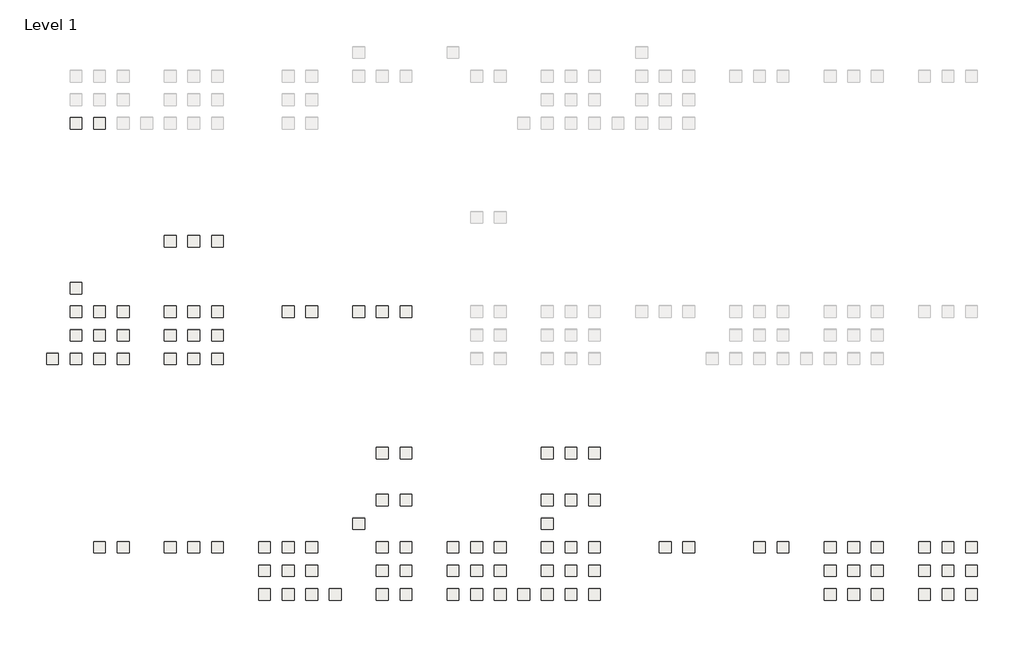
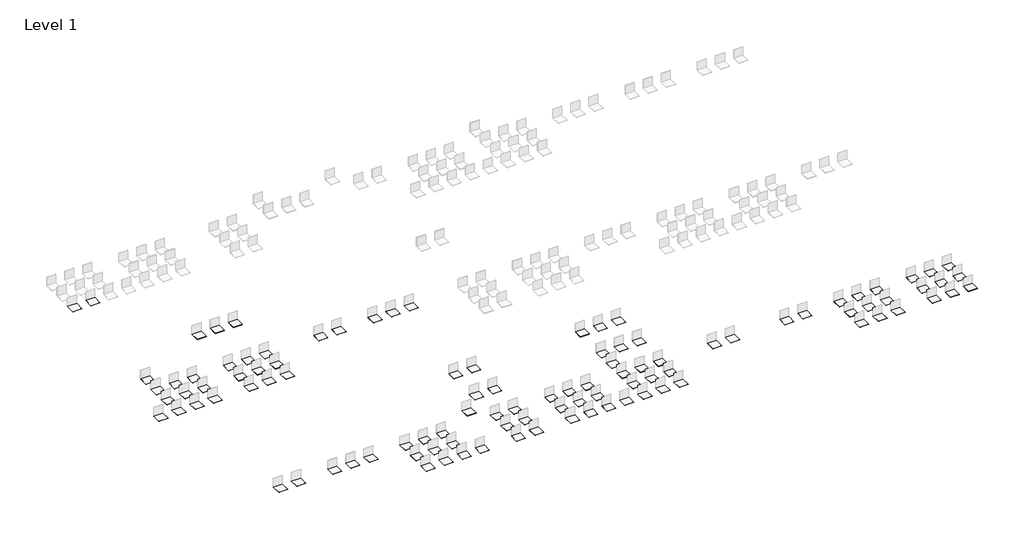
# One storey, part 3 of 4: 104 coverings.
"""IFC4 building model written with IfcOpenShell, lengths in millimetres."""

from ifc_helpers import new_model, si_unit, frame, origin, place, context, project, spatial, polyline, outline, extrude, element, save

model = new_model("IFC4")

# Units and contexts
model_context = context("Model", 3, world=origin())
ifc_project = project(units=[si_unit("LENGTHUNIT", "METRE", prefix="MILLI")], contexts=[model_context])

# Site, building, storey
site = spatial("IfcSite", under=ifc_project)
building = spatial("IfcBuilding", under=site)
storey = spatial("IfcBuildingStorey", under=building, Name="Level 1", Elevation=0.0)

# Coverings
placement = place(None, origin())
element("IfcCovering", 1, ObjectType="REVIGRÉS-CROMATICA-BASE-29,7x29,7-MATTRECT-Cromatica_alloy", at=placement, inside=storey, context=model_context, shape_type="SweptSolid", body=[
    extrude(outline(polyline([(3002.0475963, 26398.4324289), (2002.0475963, 26398.4324289), (2002.0475963, 27398.4324289), (3002.0475963, 27398.4324289), (3002.0475963, 26398.4324289)])), frame((0.0, 0.0, -8.5), z_axis=(0.0, 0.0, 1.0), x_axis=(1.0, 0.0, 0.0)), (0.0, 0.0, 1.0), 8.5),
])
element("IfcCovering", 2, ObjectType="REVIGRÉS-CROMATICA-BASE-29,7x29,7-POL-Cromatica_alloy", at=placement, inside=storey, context=model_context, shape_type="SweptSolid", body=[
    extrude(outline(polyline([(5002.0475963, 26398.4324289), (4002.0475963, 26398.4324289), (4002.0475963, 27398.6824289), (5002.0475963, 27398.6824289), (5002.0475963, 26398.4324289)])), frame((0.0, 0.0, -8.0), z_axis=(0.0, 0.0, 1.0), x_axis=(1.0, 0.0, 0.0)), (0.0, 0.0, 1.0), 8.0),
])
element("IfcCovering", 3, ObjectType="REVIGRÉS-CROMATICA-BASE-29,7x29,7-MATTRECT-Cromatica_grafite", at=placement, inside=storey, context=model_context, shape_type="SweptSolid", body=[
    extrude(outline(polyline([(3002.0475963, 6398.432429), (2002.0475963, 6398.432429), (2002.0475963, 7398.432429), (3002.0475963, 7398.432429), (3002.0475963, 6398.432429)])), frame((0.0, 0.0, -8.5), z_axis=(0.0, 0.0, 1.0), x_axis=(1.0, 0.0, 0.0)), (0.0, 0.0, 1.0), 8.5),
])
element("IfcCovering", 4, ObjectType="REVIGRÉS-CROMATICA-BASE-29,7x59,2-MATTRECT-Cromatica_grafite", at=placement, inside=storey, context=model_context, shape_type="SweptSolid", body=[
    extrude(outline(polyline([(3002.0475963, 8398.432429), (2002.0475963, 8398.432429), (2002.0475963, 9398.432429), (3002.0475963, 9398.432429), (3002.0475963, 8398.432429)])), frame((0.0, 0.0, -8.5), z_axis=(0.0, 0.0, 1.0), x_axis=(1.0, 0.0, 0.0)), (0.0, 0.0, 1.0), 8.5),
])
element("IfcCovering", 5, ObjectType="REVIGRÉS-CROMATICA-BASE-59,2x59,2-MATTRECT-Cromatica_grafite", at=placement, inside=storey, context=model_context, shape_type="SweptSolid", body=[
    extrude(outline(polyline([(3002.0475963, 10398.432429), (2002.0475963, 10398.432429), (2002.0475963, 11398.432429), (3002.0475963, 11398.432429), (3002.0475963, 10398.432429)])), frame((0.0, 0.0, -8.5), z_axis=(0.0, 0.0, 1.0), x_axis=(1.0, 0.0, 0.0)), (0.0, 0.0, 1.0), 8.5),
])
element("IfcCovering", 6, ObjectType="REVIGRÉS-CROMATICA-BASE-59,2x59,2_14mm-MATTRECT-Cromatica_grafite", at=placement, inside=storey, context=model_context, shape_type="SweptSolid", body=[
    extrude(outline(polyline([(3002.0475963, 12398.432429), (2002.0475963, 12398.432429), (2002.0475963, 13398.432429), (3002.0475963, 13398.432429), (3002.0475963, 12398.432429)])), frame((0.0, 0.0, -14.0), z_axis=(0.0, 0.0, 1.0), x_axis=(1.0, 0.0, 0.0)), (0.0, 0.0, 1.0), 14.0),
])
element("IfcCovering", 7, ObjectType="REVIGRÉS-CROMATICA-BASE-29,7x29,7-POL-Cromatica_grafite", at=placement, inside=storey, context=model_context, shape_type="SweptSolid", body=[
    extrude(outline(polyline([(5002.0475963, 6398.432429), (4002.0475963, 6398.432429), (4002.0475963, 7398.682429), (5002.0475963, 7398.682429), (5002.0475963, 6398.432429)])), frame((0.0, 0.0, -8.0), z_axis=(0.0, 0.0, 1.0), x_axis=(1.0, 0.0, 0.0)), (0.0, 0.0, 1.0), 8.0),
])
element("IfcCovering", 8, ObjectType="REVIGRÉS-CROMATICA-BASE-29,7x59,2-POL-Cromatica_grafite", at=placement, inside=storey, context=model_context, shape_type="SweptSolid", body=[
    extrude(outline(polyline([(5002.0475963, 8398.432429), (4002.0475963, 8398.432429), (4002.0475963, 9398.432429), (5002.0475963, 9398.432429), (5002.0475963, 8398.432429)])), frame((0.0, 0.0, -8.0), z_axis=(0.0, 0.0, 1.0), x_axis=(1.0, 0.0, 0.0)), (0.0, 0.0, 1.0), 8.0),
])
element("IfcCovering", 9, ObjectType="REVIGRÉS-CROMATICA-BASE-59,2x59,2-POL-Cromatica_grafite", at=placement, inside=storey, context=model_context, shape_type="SweptSolid", body=[
    extrude(outline(polyline([(5002.0475963, 10398.432429), (4002.0475963, 10398.432429), (4002.0475963, 11398.432429), (5002.0475963, 11398.432429), (5002.0475963, 10398.432429)])), frame((0.0, 0.0, -8.0), z_axis=(0.0, 0.0, 1.0), x_axis=(1.0, 0.0, 0.0)), (0.0, 0.0, 1.0), 8.0),
])
element("IfcCovering", 10, ObjectType="REVIGRÉS-CROMATICA-BASE-29,7x29,7-SOFT-Cromatica_grafite", at=placement, inside=storey, context=model_context, shape_type="SweptSolid", body=[
    extrude(outline(polyline([(7002.0475963, 6398.432429), (6002.0475963, 6398.432429), (6002.0475963, 7398.432429), (7002.0475963, 7398.432429), (7002.0475963, 6398.432429)])), frame((0.0, 0.0, -8.5), z_axis=(0.0, 0.0, 1.0), x_axis=(1.0, 0.0, 0.0)), (0.0, 0.0, 1.0), 8.5),
])
element("IfcCovering", 11, ObjectType="REVIGRÉS-CROMATICA-BASE-29,7x59,2-SOFT-Cromatica_grafite", at=placement, inside=storey, context=model_context, shape_type="SweptSolid", body=[
    extrude(outline(polyline([(7002.0475963, 8398.432429), (6002.0475963, 8398.432429), (6002.0475963, 9398.432429), (7002.0475963, 9398.432429), (7002.0475963, 8398.432429)])), frame((0.0, 0.0, -8.5), z_axis=(0.0, 0.0, 1.0), x_axis=(1.0, 0.0, 0.0)), (0.0, 0.0, 1.0), 8.5),
])
element("IfcCovering", 12, ObjectType="REVIGRÉS-CROMATICA-BASE-59,2x59,2-SOFT-Cromatica_grafite", at=placement, inside=storey, context=model_context, shape_type="SweptSolid", body=[
    extrude(outline(polyline([(7002.0475963, 10398.432429), (6002.0475963, 10398.432429), (6002.0475963, 11398.432429), (7002.0475963, 11398.432429), (7002.0475963, 10398.432429)])), frame((0.0, 0.0, -8.5), z_axis=(0.0, 0.0, 1.0), x_axis=(1.0, 0.0, 0.0)), (0.0, 0.0, 1.0), 8.5),
])
element("IfcCovering", 13, ObjectType="REVIGRÉS-CROMATICA-BASE-29,7x29,7-MATTRECT-Cromatica_ice", at=placement, inside=storey, context=model_context, shape_type="SweptSolid", body=[
    extrude(outline(polyline([(11002.0475963, 6398.432429), (10002.0475963, 6398.432429), (10002.0475963, 7398.432429), (11002.0475963, 7398.432429), (11002.0475963, 6398.432429)])), frame((0.0, 0.0, -8.5), z_axis=(0.0, 0.0, 1.0), x_axis=(1.0, 0.0, 0.0)), (0.0, 0.0, 1.0), 8.5),
])
element("IfcCovering", 14, ObjectType="REVIGRÉS-CROMATICA-BASE-29,7x59,2-MATTRECT-Cromatica_ice", at=placement, inside=storey, context=model_context, shape_type="SweptSolid", body=[
    extrude(outline(polyline([(11002.0475963, 8398.432429), (10002.0475963, 8398.432429), (10002.0475963, 9398.432429), (11002.0475963, 9398.432429), (11002.0475963, 8398.432429)])), frame((0.0, 0.0, -8.5), z_axis=(0.0, 0.0, 1.0), x_axis=(1.0, 0.0, 0.0)), (0.0, 0.0, 1.0), 8.5),
])
element("IfcCovering", 15, ObjectType="REVIGRÉS-CROMATICA-BASE-59,2x59,2-MATTRECT-Cromatica_ice", at=placement, inside=storey, context=model_context, shape_type="SweptSolid", body=[
    extrude(outline(polyline([(11002.0475963, 10398.432429), (10002.0475963, 10398.432429), (10002.0475963, 11398.432429), (11002.0475963, 11398.432429), (11002.0475963, 10398.432429)])), frame((0.0, 0.0, -8.5), z_axis=(0.0, 0.0, 1.0), x_axis=(1.0, 0.0, 0.0)), (0.0, 0.0, 1.0), 8.5),
])
element("IfcCovering", 16, ObjectType="REVIGRÉS-CROMATICA-BASE-29,7x29,7-POL-Cromatica_ice", at=placement, inside=storey, context=model_context, shape_type="SweptSolid", body=[
    extrude(outline(polyline([(13002.0475963, 6398.432429), (12002.0475963, 6398.432429), (12002.0475963, 7398.682429), (13002.0475963, 7398.682429), (13002.0475963, 6398.432429)])), frame((0.0, 0.0, -8.0), z_axis=(0.0, 0.0, 1.0), x_axis=(1.0, 0.0, 0.0)), (0.0, 0.0, 1.0), 8.0),
])
element("IfcCovering", 17, ObjectType="REVIGRÉS-CROMATICA-BASE-29,7x59,2-POL-Cromatica_ice", at=placement, inside=storey, context=model_context, shape_type="SweptSolid", body=[
    extrude(outline(polyline([(13002.0475963, 8398.432429), (12002.0475963, 8398.432429), (12002.0475963, 9398.432429), (13002.0475963, 9398.432429), (13002.0475963, 8398.432429)])), frame((0.0, 0.0, -8.0), z_axis=(0.0, 0.0, 1.0), x_axis=(1.0, 0.0, 0.0)), (0.0, 0.0, 1.0), 8.0),
])
element("IfcCovering", 18, ObjectType="REVIGRÉS-CROMATICA-BASE-59,2x59,2-POL-Cromatica_ice", at=placement, inside=storey, context=model_context, shape_type="SweptSolid", body=[
    extrude(outline(polyline([(13002.0475963, 10398.432429), (12002.0475963, 10398.432429), (12002.0475963, 11398.432429), (13002.0475963, 11398.432429), (13002.0475963, 10398.432429)])), frame((0.0, 0.0, -8.0), z_axis=(0.0, 0.0, 1.0), x_axis=(1.0, 0.0, 0.0)), (0.0, 0.0, 1.0), 8.0),
])
element("IfcCovering", 19, ObjectType="REVIGRÉS-CROMATICA-BASE-29,7x29,7-SOFT-Cromatica_ice", at=placement, inside=storey, context=model_context, shape_type="SweptSolid", body=[
    extrude(outline(polyline([(15002.0475963, 6398.432429), (14002.0475963, 6398.432429), (14002.0475963, 7398.432429), (15002.0475963, 7398.432429), (15002.0475963, 6398.432429)])), frame((0.0, 0.0, -8.5), z_axis=(0.0, 0.0, 1.0), x_axis=(1.0, 0.0, 0.0)), (0.0, 0.0, 1.0), 8.5),
])
element("IfcCovering", 20, ObjectType="REVIGRÉS-CROMATICA-BASE-29,7x59,2-SOFT-Cromatica_ice", at=placement, inside=storey, context=model_context, shape_type="SweptSolid", body=[
    extrude(outline(polyline([(15002.0475963, 8398.432429), (14002.0475963, 8398.432429), (14002.0475963, 9398.432429), (15002.0475963, 9398.432429), (15002.0475963, 8398.432429)])), frame((0.0, 0.0, -8.5), z_axis=(0.0, 0.0, 1.0), x_axis=(1.0, 0.0, 0.0)), (0.0, 0.0, 1.0), 8.5),
])
element("IfcCovering", 21, ObjectType="REVIGRÉS-CROMATICA-BASE-59,2x59,2-SOFT-Cromatica_ice", at=placement, inside=storey, context=model_context, shape_type="SweptSolid", body=[
    extrude(outline(polyline([(15002.0475963, 10398.432429), (14002.0475963, 10398.432429), (14002.0475963, 11398.432429), (15002.0475963, 11398.432429), (15002.0475963, 10398.432429)])), frame((0.0, 0.0, -8.5), z_axis=(0.0, 0.0, 1.0), x_axis=(1.0, 0.0, 0.0)), (0.0, 0.0, 1.0), 8.5),
])
element("IfcCovering", 22, ObjectType="REVIGRÉS-CROMATICA-BASE-59,2x59,2-POL-Cromatica_indigo", at=placement, inside=storey, context=model_context, shape_type="SweptSolid", body=[
    extrude(outline(polyline([(21002.0475963, 10398.432429), (20002.0475963, 10398.432429), (20002.0475963, 11398.432429), (21002.0475963, 11398.432429), (21002.0475963, 10398.432429)])), frame((0.0, 0.0, -8.0), z_axis=(0.0, 0.0, 1.0), x_axis=(1.0, 0.0, 0.0)), (0.0, 0.0, 1.0), 8.0),
])
element("IfcCovering", 23, ObjectType="REVIGRÉS-CROMATICA-BASE-59,2x59,2-SOFT-Cromatica_indigo", at=placement, inside=storey, context=model_context, shape_type="SweptSolid", body=[
    extrude(outline(polyline([(23002.0475963, 10398.432429), (22002.0475963, 10398.432429), (22002.0475963, 11398.432429), (23002.0475963, 11398.432429), (23002.0475963, 10398.432429)])), frame((0.0, 0.0, -8.5), z_axis=(0.0, 0.0, 1.0), x_axis=(1.0, 0.0, 0.0)), (0.0, 0.0, 1.0), 8.5),
])
element("IfcCovering", 24, ObjectType="REVIGRÉS-CROMATICA-BASE-87x87-MATTRECT-Cromatica_ice", at=placement, inside=storey, context=model_context, shape_type="SweptSolid", body=[
    extrude(outline(polyline([(11002.0475963, 16398.432429), (10002.0475963, 16398.432429), (10002.0475963, 17398.432429), (11002.0475963, 17398.432429), (11002.0475963, 16398.432429)])), frame((0.0, 0.0, -10.5), z_axis=(0.0, 0.0, 1.0), x_axis=(1.0, 0.0, 0.0)), (0.0, 0.0, 1.0), 10.5),
])
element("IfcCovering", 25, ObjectType="REVIGRÉS-CROMATICA-BASE-87x87-POL-Cromatica_ice", at=placement, inside=storey, context=model_context, shape_type="SweptSolid", body=[
    extrude(outline(polyline([(13002.0475963, 16398.432429), (12002.0475963, 16398.432429), (12002.0475963, 17398.432429), (13002.0475963, 17398.432429), (13002.0475963, 16398.432429)])), frame((0.0, 0.0, -9.8), z_axis=(0.0, 0.0, 1.0), x_axis=(1.0, 0.0, 0.0)), (0.0, 0.0, 1.0), 9.8),
])
element("IfcCovering", 26, ObjectType="REVIGRÉS-CROMATICA-BASE-87x87-SOFT-Cromatica_ice", at=placement, inside=storey, context=model_context, shape_type="SweptSolid", body=[
    extrude(outline(polyline([(15002.0475963, 16398.432429), (14002.0475963, 16398.432429), (14002.0475963, 17398.432429), (15002.0475963, 17398.432429), (15002.0475963, 16398.432429)])), frame((0.0, 0.0, -10.5), z_axis=(0.0, 0.0, 1.0), x_axis=(1.0, 0.0, 0.0)), (0.0, 0.0, 1.0), 10.5),
])
element("IfcCovering", 27, ObjectType="REVIGRÉS-CROMATICA-BASE-59,2x59,2-MATTRECT-Cromatica_jade", at=placement, inside=storey, context=model_context, shape_type="SweptSolid", body=[
    extrude(outline(polyline([(27002.0475963, 10398.432429), (26002.0475963, 10398.432429), (26002.0475963, 11398.432429), (27002.0475963, 11398.432429), (27002.0475963, 10398.432429)])), frame((0.0, 0.0, -8.5), z_axis=(0.0, 0.0, 1.0), x_axis=(1.0, 0.0, 0.0)), (0.0, 0.0, 1.0), 8.5),
])
element("IfcCovering", 28, ObjectType="REVIGRÉS-CROMATICA-BASE-59,2x59,2-POL-Cromatica_jade", at=placement, inside=storey, context=model_context, shape_type="SweptSolid", body=[
    extrude(outline(polyline([(29002.0475963, 10398.432429), (28002.0475963, 10398.432429), (28002.0475963, 11398.432429), (29002.0475963, 11398.432429), (29002.0475963, 10398.432429)])), frame((0.0, 0.0, -8.0), z_axis=(0.0, 0.0, 1.0), x_axis=(1.0, 0.0, 0.0)), (0.0, 0.0, 1.0), 8.0),
])
element("IfcCovering", 29, ObjectType="REVIGRÉS-CROMATICA-BASE-59,2x59,2-SOFT-Cromatica_jade", at=placement, inside=storey, context=model_context, shape_type="SweptSolid", body=[
    extrude(outline(polyline([(31002.0475963, 10398.432429), (30002.0475963, 10398.432429), (30002.0475963, 11398.432429), (31002.0475963, 11398.432429), (31002.0475963, 10398.432429)])), frame((0.0, 0.0, -8.5), z_axis=(0.0, 0.0, 1.0), x_axis=(1.0, 0.0, 0.0)), (0.0, 0.0, 1.0), 8.5),
])
element("IfcCovering", 30, ObjectType="REVIGRÉS-CROMATICA-BASE-59,2x59,2-POL-Cromatica_palm", at=placement, inside=storey, context=model_context, shape_type="SweptSolid", body=[
    extrude(outline(polyline([(5002.0475963, -9601.567571), (4002.0475963, -9601.567571), (4002.0475963, -8601.567571), (5002.0475963, -8601.567571), (5002.0475963, -9601.567571)])), frame((0.0, 0.0, -8.0), z_axis=(0.0, 0.0, 1.0), x_axis=(1.0, 0.0, 0.0)), (0.0, 0.0, 1.0), 8.0),
])
element("IfcCovering", 31, ObjectType="REVIGRÉS-CROMATICA-BASE-59,2x59,2-SOFT-Cromatica_palm", at=placement, inside=storey, context=model_context, shape_type="SweptSolid", body=[
    extrude(outline(polyline([(7002.0475963, -9601.567571), (6002.0475963, -9601.567571), (6002.0475963, -8601.567571), (7002.0475963, -8601.567571), (7002.0475963, -9601.567571)])), frame((0.0, 0.0, -8.5), z_axis=(0.0, 0.0, 1.0), x_axis=(1.0, 0.0, 0.0)), (0.0, 0.0, 1.0), 8.5),
])
element("IfcCovering", 32, ObjectType="REVIGRÉS-CROMATICA-BASE-59,2x59,2-POL-Cromatica_pistachio", at=placement, inside=storey, context=model_context, shape_type="SweptSolid", body=[
    extrude(outline(polyline([(13002.0475963, -9601.567571), (12002.0475963, -9601.567571), (12002.0475963, -8601.567571), (13002.0475963, -8601.567571), (13002.0475963, -9601.567571)])), frame((0.0, 0.0, -8.0), z_axis=(0.0, 0.0, 1.0), x_axis=(1.0, 0.0, 0.0)), (0.0, 0.0, 1.0), 8.0),
])
element("IfcCovering", 33, ObjectType="REVIGRÉS-CROMATICA-BASE-59,2x59,2-SOFT-Cromatica_pistachio", at=placement, inside=storey, context=model_context, shape_type="SweptSolid", body=[
    extrude(outline(polyline([(15002.0475963, -9601.567571), (14002.0475963, -9601.567571), (14002.0475963, -8601.567571), (15002.0475963, -8601.567571), (15002.0475963, -9601.567571)])), frame((0.0, 0.0, -8.5), z_axis=(0.0, 0.0, 1.0), x_axis=(1.0, 0.0, 0.0)), (0.0, 0.0, 1.0), 8.5),
])
element("IfcCovering", 34, ObjectType="REVIGRÉS-CROMATICA-BASE-29,7x29,7-MATTRECT-Cromatica_platina", at=placement, inside=storey, context=model_context, shape_type="SweptSolid", body=[
    extrude(outline(polyline([(19002.0475963, -13601.567571), (18002.0475963, -13601.567571), (18002.0475963, -12601.567571), (19002.0475963, -12601.567571), (19002.0475963, -13601.567571)])), frame((0.0, 0.0, -8.5), z_axis=(0.0, 0.0, 1.0), x_axis=(1.0, 0.0, 0.0)), (0.0, 0.0, 1.0), 8.5),
])
element("IfcCovering", 35, ObjectType="REVIGRÉS-CROMATICA-BASE-29,7x59,2-MATTRECT-Cromatica_platina", at=placement, inside=storey, context=model_context, shape_type="SweptSolid", body=[
    extrude(outline(polyline([(19002.0475963, -11601.567571), (18002.0475963, -11601.567571), (18002.0475963, -10601.567571), (19002.0475963, -10601.567571), (19002.0475963, -11601.567571)])), frame((0.0, 0.0, -8.5), z_axis=(0.0, 0.0, 1.0), x_axis=(1.0, 0.0, 0.0)), (0.0, 0.0, 1.0), 8.5),
])
element("IfcCovering", 36, ObjectType="REVIGRÉS-CROMATICA-BASE-59,2x59,2-MATTRECT-Cromatica_platina", at=placement, inside=storey, context=model_context, shape_type="SweptSolid", body=[
    extrude(outline(polyline([(19002.0475963, -9601.567571), (18002.0475963, -9601.567571), (18002.0475963, -8601.567571), (19002.0475963, -8601.567571), (19002.0475963, -9601.567571)])), frame((0.0, 0.0, -8.5), z_axis=(0.0, 0.0, 1.0), x_axis=(1.0, 0.0, 0.0)), (0.0, 0.0, 1.0), 8.5),
])
element("IfcCovering", 37, ObjectType="REVIGRÉS-CROMATICA-BASE-29,7x29,7-POL-Cromatica_platina", at=placement, inside=storey, context=model_context, shape_type="SweptSolid", body=[
    extrude(outline(polyline([(21002.0475963, -13601.567571), (20002.0475963, -13601.567571), (20002.0475963, -12601.317571), (21002.0475963, -12601.317571), (21002.0475963, -13601.567571)])), frame((0.0, 0.0, -8.0), z_axis=(0.0, 0.0, 1.0), x_axis=(1.0, 0.0, 0.0)), (0.0, 0.0, 1.0), 8.0),
])
element("IfcCovering", 38, ObjectType="REVIGRÉS-CROMATICA-BASE-29,7x59,2-POL-Cromatica_platina", at=placement, inside=storey, context=model_context, shape_type="SweptSolid", body=[
    extrude(outline(polyline([(21002.0475963, -11601.567571), (20002.0475963, -11601.567571), (20002.0475963, -10601.567571), (21002.0475963, -10601.567571), (21002.0475963, -11601.567571)])), frame((0.0, 0.0, -8.0), z_axis=(0.0, 0.0, 1.0), x_axis=(1.0, 0.0, 0.0)), (0.0, 0.0, 1.0), 8.0),
])
element("IfcCovering", 39, ObjectType="REVIGRÉS-CROMATICA-BASE-59,2x59,2-POL-Cromatica_platina", at=placement, inside=storey, context=model_context, shape_type="SweptSolid", body=[
    extrude(outline(polyline([(21002.0475963, -9601.567571), (20002.0475963, -9601.567571), (20002.0475963, -8601.567571), (21002.0475963, -8601.567571), (21002.0475963, -9601.567571)])), frame((0.0, 0.0, -8.0), z_axis=(0.0, 0.0, 1.0), x_axis=(1.0, 0.0, 0.0)), (0.0, 0.0, 1.0), 8.0),
])
element("IfcCovering", 40, ObjectType="REVIGRÉS-CROMATICA-BASE-29,7x29,7-SOFT-Cromatica_platina", at=placement, inside=storey, context=model_context, shape_type="SweptSolid", body=[
    extrude(outline(polyline([(23002.0475963, -13601.567571), (22002.0475963, -13601.567571), (22002.0475963, -12601.567571), (23002.0475963, -12601.567571), (23002.0475963, -13601.567571)])), frame((0.0, 0.0, -8.5), z_axis=(0.0, 0.0, 1.0), x_axis=(1.0, 0.0, 0.0)), (0.0, 0.0, 1.0), 8.5),
])
element("IfcCovering", 41, ObjectType="REVIGRÉS-CROMATICA-BASE-29,7x59,2-SOFT-Cromatica_platina", at=placement, inside=storey, context=model_context, shape_type="SweptSolid", body=[
    extrude(outline(polyline([(23002.0475963, -11601.567571), (22002.0475963, -11601.567571), (22002.0475963, -10601.567571), (23002.0475963, -10601.567571), (23002.0475963, -11601.567571)])), frame((0.0, 0.0, -8.5), z_axis=(0.0, 0.0, 1.0), x_axis=(1.0, 0.0, 0.0)), (0.0, 0.0, 1.0), 8.5),
])
element("IfcCovering", 42, ObjectType="REVIGRÉS-CROMATICA-BASE-59,2x59,2-SOFT-Cromatica_platina", at=placement, inside=storey, context=model_context, shape_type="SweptSolid", body=[
    extrude(outline(polyline([(23002.0475963, -9601.567571), (22002.0475963, -9601.567571), (22002.0475963, -8601.567571), (23002.0475963, -8601.567571), (23002.0475963, -9601.567571)])), frame((0.0, 0.0, -8.5), z_axis=(0.0, 0.0, 1.0), x_axis=(1.0, 0.0, 0.0)), (0.0, 0.0, 1.0), 8.5),
])
element("IfcCovering", 43, ObjectType="REVIGRÉS-CROMATICA-BASE-29,7x29,7-POL-Cromatica_preto", at=placement, inside=storey, context=model_context, shape_type="SweptSolid", body=[
    extrude(outline(polyline([(29002.0475963, -13601.567571), (28002.0475963, -13601.567571), (28002.0475963, -12601.317571), (29002.0475963, -12601.317571), (29002.0475963, -13601.567571)])), frame((0.0, 0.0, -8.0), z_axis=(0.0, 0.0, 1.0), x_axis=(1.0, 0.0, 0.0)), (0.0, 0.0, 1.0), 8.0),
])
element("IfcCovering", 44, ObjectType="REVIGRÉS-CROMATICA-BASE-29,7x59,2-POL-Cromatica_preto", at=placement, inside=storey, context=model_context, shape_type="SweptSolid", body=[
    extrude(outline(polyline([(29002.0475963, -11601.567571), (28002.0475963, -11601.567571), (28002.0475963, -10601.567571), (29002.0475963, -10601.567571), (29002.0475963, -11601.567571)])), frame((0.0, 0.0, -8.0), z_axis=(0.0, 0.0, 1.0), x_axis=(1.0, 0.0, 0.0)), (0.0, 0.0, 1.0), 8.0),
])
element("IfcCovering", 45, ObjectType="REVIGRÉS-CROMATICA-BASE-59,2x59,2-POL-Cromatica_preto", at=placement, inside=storey, context=model_context, shape_type="SweptSolid", body=[
    extrude(outline(polyline([(29002.0475963, -9601.567571), (28002.0475963, -9601.567571), (28002.0475963, -8601.567571), (29002.0475963, -8601.567571), (29002.0475963, -9601.567571)])), frame((0.0, 0.0, -8.0), z_axis=(0.0, 0.0, 1.0), x_axis=(1.0, 0.0, 0.0)), (0.0, 0.0, 1.0), 8.0),
])
element("IfcCovering", 46, ObjectType="REVIGRÉS-CROMATICA-BASE-29,7x29,7-SOFT-Cromatica_preto", at=placement, inside=storey, context=model_context, shape_type="SweptSolid", body=[
    extrude(outline(polyline([(31002.0475963, -13601.567571), (30002.0475963, -13601.567571), (30002.0475963, -12601.567571), (31002.0475963, -12601.567571), (31002.0475963, -13601.567571)])), frame((0.0, 0.0, -8.5), z_axis=(0.0, 0.0, 1.0), x_axis=(1.0, 0.0, 0.0)), (0.0, 0.0, 1.0), 8.5),
])
element("IfcCovering", 47, ObjectType="REVIGRÉS-CROMATICA-BASE-29,7x59,2-SOFT-Cromatica_preto", at=placement, inside=storey, context=model_context, shape_type="SweptSolid", body=[
    extrude(outline(polyline([(31002.0475963, -11601.567571), (30002.0475963, -11601.567571), (30002.0475963, -10601.567571), (31002.0475963, -10601.567571), (31002.0475963, -11601.567571)])), frame((0.0, 0.0, -8.5), z_axis=(0.0, 0.0, 1.0), x_axis=(1.0, 0.0, 0.0)), (0.0, 0.0, 1.0), 8.5),
])
element("IfcCovering", 48, ObjectType="REVIGRÉS-CROMATICA-BASE-59,2x59,2-SOFT-Cromatica_preto", at=placement, inside=storey, context=model_context, shape_type="SweptSolid", body=[
    extrude(outline(polyline([(31002.0475963, -9601.567571), (30002.0475963, -9601.567571), (30002.0475963, -8601.567571), (31002.0475963, -8601.567571), (31002.0475963, -9601.567571)])), frame((0.0, 0.0, -8.5), z_axis=(0.0, 0.0, 1.0), x_axis=(1.0, 0.0, 0.0)), (0.0, 0.0, 1.0), 8.5),
])
element("IfcCovering", 49, ObjectType="REVIGRÉS-CROMATICA-BASE-29,7x29,7-MATTNAT-Cromatica_preto", at=placement, inside=storey, context=model_context, shape_type="SweptSolid", body=[
    extrude(outline(polyline([(25002.0475963, -13601.567571), (24002.0475963, -13601.567571), (24002.0475963, -12601.967571), (25002.0475963, -12601.967571), (25002.0475963, -13601.567571)])), frame((0.0, 0.0, -8.5), z_axis=(0.0, 0.0, 1.0), x_axis=(1.0, 0.0, 0.0)), (0.0, 0.0, 1.0), 8.5),
])
element("IfcCovering", 50, ObjectType="REVIGRÉS-CROMATICA-BASE-29,7x29,7-MATTRECT-Cromatica_quartz", at=placement, inside=storey, context=model_context, shape_type="SweptSolid", body=[
    extrude(outline(polyline([(35002.0475963, -13601.567571), (34002.0475963, -13601.567571), (34002.0475963, -12601.567571), (35002.0475963, -12601.567571), (35002.0475963, -13601.567571)])), frame((0.0, 0.0, -8.5), z_axis=(0.0, 0.0, 1.0), x_axis=(1.0, 0.0, 0.0)), (0.0, 0.0, 1.0), 8.5),
])
element("IfcCovering", 51, ObjectType="REVIGRÉS-CROMATICA-BASE-29,7x59,2-MATTRECT-Cromatica_quartz", at=placement, inside=storey, context=model_context, shape_type="SweptSolid", body=[
    extrude(outline(polyline([(35002.0475963, -11601.567571), (34002.0475963, -11601.567571), (34002.0475963, -10601.567571), (35002.0475963, -10601.567571), (35002.0475963, -11601.567571)])), frame((0.0, 0.0, -8.5), z_axis=(0.0, 0.0, 1.0), x_axis=(1.0, 0.0, 0.0)), (0.0, 0.0, 1.0), 8.5),
])
element("IfcCovering", 52, ObjectType="REVIGRÉS-CROMATICA-BASE-59,2x59,2-MATTRECT-Cromatica_quartz", at=placement, inside=storey, context=model_context, shape_type="SweptSolid", body=[
    extrude(outline(polyline([(35002.0475963, -9601.567571), (34002.0475963, -9601.567571), (34002.0475963, -8601.567571), (35002.0475963, -8601.567571), (35002.0475963, -9601.567571)])), frame((0.0, 0.0, -8.5), z_axis=(0.0, 0.0, 1.0), x_axis=(1.0, 0.0, 0.0)), (0.0, 0.0, 1.0), 8.5),
])
element("IfcCovering", 53, ObjectType="REVIGRÉS-CROMATICA-BASE-29,7x29,7-POL-Cromatica_quartz", at=placement, inside=storey, context=model_context, shape_type="SweptSolid", body=[
    extrude(outline(polyline([(37002.0475963, -13601.567571), (36002.0475963, -13601.567571), (36002.0475963, -12601.317571), (37002.0475963, -12601.317571), (37002.0475963, -13601.567571)])), frame((0.0, 0.0, -8.0), z_axis=(0.0, 0.0, 1.0), x_axis=(1.0, 0.0, 0.0)), (0.0, 0.0, 1.0), 8.0),
])
element("IfcCovering", 54, ObjectType="REVIGRÉS-CROMATICA-BASE-29,7x59,2-POL-Cromatica_quartz", at=placement, inside=storey, context=model_context, shape_type="SweptSolid", body=[
    extrude(outline(polyline([(37002.0475963, -11601.567571), (36002.0475963, -11601.567571), (36002.0475963, -10601.567571), (37002.0475963, -10601.567571), (37002.0475963, -11601.567571)])), frame((0.0, 0.0, -8.0), z_axis=(0.0, 0.0, 1.0), x_axis=(1.0, 0.0, 0.0)), (0.0, 0.0, 1.0), 8.0),
])
element("IfcCovering", 55, ObjectType="REVIGRÉS-CROMATICA-BASE-59,2x59,2-POL-Cromatica_quartz", at=placement, inside=storey, context=model_context, shape_type="SweptSolid", body=[
    extrude(outline(polyline([(37002.0475963, -9601.567571), (36002.0475963, -9601.567571), (36002.0475963, -8601.567571), (37002.0475963, -8601.567571), (37002.0475963, -9601.567571)])), frame((0.0, 0.0, -8.0), z_axis=(0.0, 0.0, 1.0), x_axis=(1.0, 0.0, 0.0)), (0.0, 0.0, 1.0), 8.0),
])
element("IfcCovering", 56, ObjectType="REVIGRÉS-CROMATICA-BASE-29,7x29,7-SOFT-Cromatica_quartz", at=placement, inside=storey, context=model_context, shape_type="SweptSolid", body=[
    extrude(outline(polyline([(39002.0475963, -13601.567571), (38002.0475963, -13601.567571), (38002.0475963, -12601.567571), (39002.0475963, -12601.567571), (39002.0475963, -13601.567571)])), frame((0.0, 0.0, -8.5), z_axis=(0.0, 0.0, 1.0), x_axis=(1.0, 0.0, 0.0)), (0.0, 0.0, 1.0), 8.5),
])
element("IfcCovering", 57, ObjectType="REVIGRÉS-CROMATICA-BASE-29,7x59,2-SOFT-Cromatica_quartz", at=placement, inside=storey, context=model_context, shape_type="SweptSolid", body=[
    extrude(outline(polyline([(39002.0475963, -11601.567571), (38002.0475963, -11601.567571), (38002.0475963, -10601.567571), (39002.0475963, -10601.567571), (39002.0475963, -11601.567571)])), frame((0.0, 0.0, -8.5), z_axis=(0.0, 0.0, 1.0), x_axis=(1.0, 0.0, 0.0)), (0.0, 0.0, 1.0), 8.5),
])
element("IfcCovering", 58, ObjectType="REVIGRÉS-CROMATICA-BASE-59,2x59,2-SOFT-Cromatica_quartz", at=placement, inside=storey, context=model_context, shape_type="SweptSolid", body=[
    extrude(outline(polyline([(39002.0475963, -9601.567571), (38002.0475963, -9601.567571), (38002.0475963, -8601.567571), (39002.0475963, -8601.567571), (39002.0475963, -9601.567571)])), frame((0.0, 0.0, -8.5), z_axis=(0.0, 0.0, 1.0), x_axis=(1.0, 0.0, 0.0)), (0.0, 0.0, 1.0), 8.5),
])
element("IfcCovering", 59, ObjectType="REVIGRÉS-CROMATICA-BASE-29,7x29,7-MATTRECT-Cromatica_superbranco", at=placement, inside=storey, context=model_context, shape_type="SweptSolid", body=[
    extrude(outline(polyline([(43002.0475963, -13601.567571), (42002.0475963, -13601.567571), (42002.0475963, -12601.567571), (43002.0475963, -12601.567571), (43002.0475963, -13601.567571)])), frame((0.0, 0.0, -8.5), z_axis=(0.0, 0.0, 1.0), x_axis=(1.0, 0.0, 0.0)), (0.0, 0.0, 1.0), 8.5),
])
element("IfcCovering", 60, ObjectType="REVIGRÉS-CROMATICA-BASE-29,7x59,2-MATTRECT-Cromatica_superbranco", at=placement, inside=storey, context=model_context, shape_type="SweptSolid", body=[
    extrude(outline(polyline([(43002.0475963, -11601.567571), (42002.0475963, -11601.567571), (42002.0475963, -10601.567571), (43002.0475963, -10601.567571), (43002.0475963, -11601.567571)])), frame((0.0, 0.0, -8.5), z_axis=(0.0, 0.0, 1.0), x_axis=(1.0, 0.0, 0.0)), (0.0, 0.0, 1.0), 8.5),
])
element("IfcCovering", 61, ObjectType="REVIGRÉS-CROMATICA-BASE-59,2x59,2-MATTRECT-Cromatica_superbranco", at=placement, inside=storey, context=model_context, shape_type="SweptSolid", body=[
    extrude(outline(polyline([(43002.0475963, -9601.567571), (42002.0475963, -9601.567571), (42002.0475963, -8601.567571), (43002.0475963, -8601.567571), (43002.0475963, -9601.567571)])), frame((0.0, 0.0, -8.5), z_axis=(0.0, 0.0, 1.0), x_axis=(1.0, 0.0, 0.0)), (0.0, 0.0, 1.0), 8.5),
])
element("IfcCovering", 62, ObjectType="REVIGRÉS-CROMATICA-BASE-59,2x59,2_14mm-MATTRECT-Cromatica_superbranco", at=placement, inside=storey, context=model_context, shape_type="SweptSolid", body=[
    extrude(outline(polyline([(43002.0475963, -7601.567571), (42002.0475963, -7601.567571), (42002.0475963, -6601.567571), (43002.0475963, -6601.567571), (43002.0475963, -7601.567571)])), frame((0.0, 0.0, -14.0), z_axis=(0.0, 0.0, 1.0), x_axis=(1.0, 0.0, 0.0)), (0.0, 0.0, 1.0), 14.0),
])
element("IfcCovering", 63, ObjectType="REVIGRÉS-CROMATICA-BASE-59,2x118,6-MATTRECT-Cromatica_superbranco", at=placement, inside=storey, context=model_context, shape_type="SweptSolid", body=[
    extrude(outline(polyline([(43002.0475963, -5601.567571), (42002.0475963, -5601.567571), (42002.0475963, -4601.567571), (43002.0475963, -4601.567571), (43002.0475963, -5601.567571)])), frame((0.0, 0.0, -9.8), z_axis=(0.0, 0.0, 1.0), x_axis=(1.0, 0.0, 0.0)), (0.0, 0.0, 1.0), 9.8),
])
element("IfcCovering", 64, ObjectType="REVIGRÉS-CROMATICA-BASE-29,7x29,7-POL-Cromatica_superbranco", at=placement, inside=storey, context=model_context, shape_type="SweptSolid", body=[
    extrude(outline(polyline([(45002.0475963, -13601.567571), (44002.0475963, -13601.567571), (44002.0475963, -12601.317571), (45002.0475963, -12601.317571), (45002.0475963, -13601.567571)])), frame((0.0, 0.0, -8.0), z_axis=(0.0, 0.0, 1.0), x_axis=(1.0, 0.0, 0.0)), (0.0, 0.0, 1.0), 8.0),
])
element("IfcCovering", 65, ObjectType="REVIGRÉS-CROMATICA-BASE-29,7x59,2-POL-Cromatica_superbranco", at=placement, inside=storey, context=model_context, shape_type="SweptSolid", body=[
    extrude(outline(polyline([(45002.0475963, -11601.567571), (44002.0475963, -11601.567571), (44002.0475963, -10601.567571), (45002.0475963, -10601.567571), (45002.0475963, -11601.567571)])), frame((0.0, 0.0, -8.0), z_axis=(0.0, 0.0, 1.0), x_axis=(1.0, 0.0, 0.0)), (0.0, 0.0, 1.0), 8.0),
])
element("IfcCovering", 66, ObjectType="REVIGRÉS-CROMATICA-BASE-59,2x59,2-POL-Cromatica_superbranco", at=placement, inside=storey, context=model_context, shape_type="SweptSolid", body=[
    extrude(outline(polyline([(45002.0475963, -9601.567571), (44002.0475963, -9601.567571), (44002.0475963, -8601.567571), (45002.0475963, -8601.567571), (45002.0475963, -9601.567571)])), frame((0.0, 0.0, -8.0), z_axis=(0.0, 0.0, 1.0), x_axis=(1.0, 0.0, 0.0)), (0.0, 0.0, 1.0), 8.0),
])
element("IfcCovering", 67, ObjectType="REVIGRÉS-CROMATICA-BASE-59,2x118,6-POL-Cromatica_superbranco", at=placement, inside=storey, context=model_context, shape_type="SweptSolid", body=[
    extrude(outline(polyline([(45002.0475963, -5601.567571), (44002.0475963, -5601.567571), (44002.0475963, -4601.567571), (45002.0475963, -4601.567571), (45002.0475963, -5601.567571)])), frame((0.0, 0.0, -9.3), z_axis=(0.0, 0.0, 1.0), x_axis=(1.0, 0.0, 0.0)), (0.0, 0.0, 1.0), 9.3),
])
element("IfcCovering", 68, ObjectType="REVIGRÉS-CROMATICA-BASE-29,7x29,7-SOFT-Cromatica_superbranco", at=placement, inside=storey, context=model_context, shape_type="SweptSolid", body=[
    extrude(outline(polyline([(47002.0475963, -13601.567571), (46002.0475963, -13601.567571), (46002.0475963, -12601.567571), (47002.0475963, -12601.567571), (47002.0475963, -13601.567571)])), frame((0.0, 0.0, -8.5), z_axis=(0.0, 0.0, 1.0), x_axis=(1.0, 0.0, 0.0)), (0.0, 0.0, 1.0), 8.5),
])
element("IfcCovering", 69, ObjectType="REVIGRÉS-CROMATICA-BASE-29,7x59,2-SOFT-Cromatica_superbranco", at=placement, inside=storey, context=model_context, shape_type="SweptSolid", body=[
    extrude(outline(polyline([(47002.0475963, -11601.567571), (46002.0475963, -11601.567571), (46002.0475963, -10601.567571), (47002.0475963, -10601.567571), (47002.0475963, -11601.567571)])), frame((0.0, 0.0, -8.5), z_axis=(0.0, 0.0, 1.0), x_axis=(1.0, 0.0, 0.0)), (0.0, 0.0, 1.0), 8.5),
])
element("IfcCovering", 70, ObjectType="REVIGRÉS-CROMATICA-BASE-59,2x59,2-SOFT-Cromatica_superbranco", at=placement, inside=storey, context=model_context, shape_type="SweptSolid", body=[
    extrude(outline(polyline([(47002.0475963, -9601.567571), (46002.0475963, -9601.567571), (46002.0475963, -8601.567571), (47002.0475963, -8601.567571), (47002.0475963, -9601.567571)])), frame((0.0, 0.0, -8.5), z_axis=(0.0, 0.0, 1.0), x_axis=(1.0, 0.0, 0.0)), (0.0, 0.0, 1.0), 8.5),
])
element("IfcCovering", 71, ObjectType="REVIGRÉS-CROMATICA-BASE-59,2x118,6-SOFT-Cromatica_superbranco", at=placement, inside=storey, context=model_context, shape_type="SweptSolid", body=[
    extrude(outline(polyline([(47002.0475963, -5601.567571), (46002.0475963, -5601.567571), (46002.0475963, -4601.567571), (47002.0475963, -4601.567571), (47002.0475963, -5601.567571)])), frame((0.0, 0.0, -9.8), z_axis=(0.0, 0.0, 1.0), x_axis=(1.0, 0.0, 0.0)), (0.0, 0.0, 1.0), 9.8),
])
element("IfcCovering", 72, ObjectType="REVIGRÉS-CROMATICA-BASE-29,7x29,7-MATTNAT-Cromatica_superbranco", at=placement, inside=storey, context=model_context, shape_type="SweptSolid", body=[
    extrude(outline(polyline([(41002.0475963, -13601.567571), (40002.0475963, -13601.567571), (40002.0475963, -12601.967571), (41002.0475963, -12601.967571), (41002.0475963, -13601.567571)])), frame((0.0, 0.0, -8.5), z_axis=(0.0, 0.0, 1.0), x_axis=(1.0, 0.0, 0.0)), (0.0, 0.0, 1.0), 8.5),
])
element("IfcCovering", 73, ObjectType="REVIGRÉS-CROMATICA-BASE-59,2x59,2-POL-Cromatica_teal", at=placement, inside=storey, context=model_context, shape_type="SweptSolid", body=[
    extrude(outline(polyline([(53002.0475963, -9601.567571), (52002.0475963, -9601.567571), (52002.0475963, -8601.567571), (53002.0475963, -8601.567571), (53002.0475963, -9601.567571)])), frame((0.0, 0.0, -8.0), z_axis=(0.0, 0.0, 1.0), x_axis=(1.0, 0.0, 0.0)), (0.0, 0.0, 1.0), 8.0),
])
element("IfcCovering", 74, ObjectType="REVIGRÉS-CROMATICA-BASE-59,2x59,2-SOFT-Cromatica_teal", at=placement, inside=storey, context=model_context, shape_type="SweptSolid", body=[
    extrude(outline(polyline([(55002.0475963, -9601.567571), (54002.0475963, -9601.567571), (54002.0475963, -8601.567571), (55002.0475963, -8601.567571), (55002.0475963, -9601.567571)])), frame((0.0, 0.0, -8.5), z_axis=(0.0, 0.0, 1.0), x_axis=(1.0, 0.0, 0.0)), (0.0, 0.0, 1.0), 8.5),
])
element("IfcCovering", 75, ObjectType="REVIGRÉS-CROMATICA-BASE-59,2x59,2-POL-Cromatica_terracotta", at=placement, inside=storey, context=model_context, shape_type="SweptSolid", body=[
    extrude(outline(polyline([(61002.0475963, -9601.567571), (60002.0475963, -9601.567571), (60002.0475963, -8601.567571), (61002.0475963, -8601.567571), (61002.0475963, -9601.567571)])), frame((0.0, 0.0, -8.0), z_axis=(0.0, 0.0, 1.0), x_axis=(1.0, 0.0, 0.0)), (0.0, 0.0, 1.0), 8.0),
])
element("IfcCovering", 76, ObjectType="REVIGRÉS-CROMATICA-BASE-59,2x59,2-SOFT-Cromatica_terracotta", at=placement, inside=storey, context=model_context, shape_type="SweptSolid", body=[
    extrude(outline(polyline([(63002.0475963, -9601.567571), (62002.0475963, -9601.567571), (62002.0475963, -8601.567571), (63002.0475963, -8601.567571), (63002.0475963, -9601.567571)])), frame((0.0, 0.0, -8.5), z_axis=(0.0, 0.0, 1.0), x_axis=(1.0, 0.0, 0.0)), (0.0, 0.0, 1.0), 8.5),
])
element("IfcCovering", 77, ObjectType="REVIGRÉS-CROMATICA-BASE-29,7x29,7-MATTRECT-Cromatica_titanium", at=placement, inside=storey, context=model_context, shape_type="SweptSolid", body=[
    extrude(outline(polyline([(67002.0475963, -13601.567571), (66002.0475963, -13601.567571), (66002.0475963, -12601.567571), (67002.0475963, -12601.567571), (67002.0475963, -13601.567571)])), frame((0.0, 0.0, -8.5), z_axis=(0.0, 0.0, 1.0), x_axis=(1.0, 0.0, 0.0)), (0.0, 0.0, 1.0), 8.5),
])
element("IfcCovering", 78, ObjectType="REVIGRÉS-CROMATICA-BASE-29,7x59,2-MATTRECT-Cromatica_titanium", at=placement, inside=storey, context=model_context, shape_type="SweptSolid", body=[
    extrude(outline(polyline([(67002.0475963, -11601.567571), (66002.0475963, -11601.567571), (66002.0475963, -10601.567571), (67002.0475963, -10601.567571), (67002.0475963, -11601.567571)])), frame((0.0, 0.0, -8.5), z_axis=(0.0, 0.0, 1.0), x_axis=(1.0, 0.0, 0.0)), (0.0, 0.0, 1.0), 8.5),
])
element("IfcCovering", 79, ObjectType="REVIGRÉS-CROMATICA-BASE-59,2x59,2-MATTRECT-Cromatica_titanium", at=placement, inside=storey, context=model_context, shape_type="SweptSolid", body=[
    extrude(outline(polyline([(67002.0475963, -9601.567571), (66002.0475963, -9601.567571), (66002.0475963, -8601.567571), (67002.0475963, -8601.567571), (67002.0475963, -9601.567571)])), frame((0.0, 0.0, -8.5), z_axis=(0.0, 0.0, 1.0), x_axis=(1.0, 0.0, 0.0)), (0.0, 0.0, 1.0), 8.5),
])
element("IfcCovering", 80, ObjectType="REVIGRÉS-CROMATICA-BASE-29,7x29,7-POL-Cromatica_titanium", at=placement, inside=storey, context=model_context, shape_type="SweptSolid", body=[
    extrude(outline(polyline([(69002.0475963, -13601.567571), (68002.0475963, -13601.567571), (68002.0475963, -12601.317571), (69002.0475963, -12601.317571), (69002.0475963, -13601.567571)])), frame((0.0, 0.0, -8.0), z_axis=(0.0, 0.0, 1.0), x_axis=(1.0, 0.0, 0.0)), (0.0, 0.0, 1.0), 8.0),
])
element("IfcCovering", 81, ObjectType="REVIGRÉS-CROMATICA-BASE-29,7x59,2-POL-Cromatica_titanium", at=placement, inside=storey, context=model_context, shape_type="SweptSolid", body=[
    extrude(outline(polyline([(69002.0475963, -11601.567571), (68002.0475963, -11601.567571), (68002.0475963, -10601.567571), (69002.0475963, -10601.567571), (69002.0475963, -11601.567571)])), frame((0.0, 0.0, -8.0), z_axis=(0.0, 0.0, 1.0), x_axis=(1.0, 0.0, 0.0)), (0.0, 0.0, 1.0), 8.0),
])
element("IfcCovering", 82, ObjectType="REVIGRÉS-CROMATICA-BASE-59,2x59,2-POL-Cromatica_titanium", at=placement, inside=storey, context=model_context, shape_type="SweptSolid", body=[
    extrude(outline(polyline([(69002.0475963, -9601.567571), (68002.0475963, -9601.567571), (68002.0475963, -8601.567571), (69002.0475963, -8601.567571), (69002.0475963, -9601.567571)])), frame((0.0, 0.0, -8.0), z_axis=(0.0, 0.0, 1.0), x_axis=(1.0, 0.0, 0.0)), (0.0, 0.0, 1.0), 8.0),
])
element("IfcCovering", 83, ObjectType="REVIGRÉS-CROMATICA-BASE-29,7x29,7-SOFT-Cromatica_titanium", at=placement, inside=storey, context=model_context, shape_type="SweptSolid", body=[
    extrude(outline(polyline([(71002.0475963, -13601.567571), (70002.0475963, -13601.567571), (70002.0475963, -12601.567571), (71002.0475963, -12601.567571), (71002.0475963, -13601.567571)])), frame((0.0, 0.0, -8.5), z_axis=(0.0, 0.0, 1.0), x_axis=(1.0, 0.0, 0.0)), (0.0, 0.0, 1.0), 8.5),
])
element("IfcCovering", 84, ObjectType="REVIGRÉS-CROMATICA-BASE-29,7x59,2-SOFT-Cromatica_titanium", at=placement, inside=storey, context=model_context, shape_type="SweptSolid", body=[
    extrude(outline(polyline([(71002.0475963, -11601.567571), (70002.0475963, -11601.567571), (70002.0475963, -10601.567571), (71002.0475963, -10601.567571), (71002.0475963, -11601.567571)])), frame((0.0, 0.0, -8.5), z_axis=(0.0, 0.0, 1.0), x_axis=(1.0, 0.0, 0.0)), (0.0, 0.0, 1.0), 8.5),
])
element("IfcCovering", 85, ObjectType="REVIGRÉS-CROMATICA-BASE-59,2x59,2-SOFT-Cromatica_titanium", at=placement, inside=storey, context=model_context, shape_type="SweptSolid", body=[
    extrude(outline(polyline([(71002.0475963, -9601.567571), (70002.0475963, -9601.567571), (70002.0475963, -8601.567571), (71002.0475963, -8601.567571), (71002.0475963, -9601.567571)])), frame((0.0, 0.0, -8.5), z_axis=(0.0, 0.0, 1.0), x_axis=(1.0, 0.0, 0.0)), (0.0, 0.0, 1.0), 8.5),
])
element("IfcCovering", 86, ObjectType="REVIGRÉS-CROMATICA-BASE-59,2x59,2-MATTRECT-Cromatica_pistachio", at=placement, inside=storey, context=model_context, shape_type="SweptSolid", body=[
    extrude(outline(polyline([(11002.0475963, -9601.567571), (10002.0475963, -9601.567571), (10002.0475963, -8601.567571), (11002.0475963, -8601.567571), (11002.0475963, -9601.567571)])), frame((0.0, 0.0, -8.5), z_axis=(0.0, 0.0, 1.0), x_axis=(1.0, 0.0, 0.0)), (0.0, 0.0, 1.0), 8.5),
])
element("IfcCovering", 87, ObjectType="REVIGRÉS-CROMATICA-BASE-88,9x88,9-MATTRECT-Cromatica_superbranco", at=placement, inside=storey, context=model_context, shape_type="SweptSolid", body=[
    extrude(outline(polyline([(43002.0475963, -1601.567571), (42002.0475963, -1601.567571), (42002.0475963, -601.567571), (43002.0475963, -601.567571), (43002.0475963, -1601.567571)])), frame((0.0, 0.0, -10.5), z_axis=(0.0, 0.0, 1.0), x_axis=(1.0, 0.0, 0.0)), (0.0, 0.0, 1.0), 10.5),
])
element("IfcCovering", 88, ObjectType="REVIGRÉS-CROMATICA-BASE-88,9x88,9-POL-Cromatica_superbranco", at=placement, inside=storey, context=model_context, shape_type="SweptSolid", body=[
    extrude(outline(polyline([(45002.0475963, -1601.567571), (44002.0475963, -1601.567571), (44002.0475963, -601.567571), (45002.0475963, -601.567571), (45002.0475963, -1601.567571)])), frame((0.0, 0.0, -9.8), z_axis=(0.0, 0.0, 1.0), x_axis=(1.0, 0.0, 0.0)), (0.0, 0.0, 1.0), 9.8),
])
element("IfcCovering", 89, ObjectType="REVIGRÉS-CROMATICA-BASE-88,9x88,9-SOFT-Cromatica_superbranco", at=placement, inside=storey, context=model_context, shape_type="SweptSolid", body=[
    extrude(outline(polyline([(47002.0475963, -1601.567571), (46002.0475963, -1601.567571), (46002.0475963, -601.567571), (47002.0475963, -601.567571), (47002.0475963, -1601.567571)])), frame((0.0, 0.0, -10.5), z_axis=(0.0, 0.0, 1.0), x_axis=(1.0, 0.0, 0.0)), (0.0, 0.0, 1.0), 10.5),
])
element("IfcCovering", 90, ObjectType="REVIGRÉS-CROMATICA-BASE-59,2x59,2_14mm-MATTRECT-Cromatica_preto", at=placement, inside=storey, context=model_context, shape_type="SweptSolid", body=[
    extrude(outline(polyline([(27002.0475963, -7601.567571), (26002.0475963, -7601.567571), (26002.0475963, -6601.567571), (27002.0475963, -6601.567571), (27002.0475963, -7601.567571)])), frame((0.0, 0.0, -14.0), z_axis=(0.0, 0.0, 1.0), x_axis=(1.0, 0.0, 0.0)), (0.0, 0.0, 1.0), 14.0),
])
element("IfcCovering", 91, ObjectType="REVIGRÉS-CROMATICA-BASE-59,2x118,6-POL-Cromatica_preto", at=placement, inside=storey, context=model_context, shape_type="SweptSolid", body=[
    extrude(outline(polyline([(29002.0475963, -5601.567571), (28002.0475963, -5601.567571), (28002.0475963, -4601.567571), (29002.0475963, -4601.567571), (29002.0475963, -5601.567571)])), frame((0.0, 0.0, -9.3), z_axis=(0.0, 0.0, 1.0), x_axis=(1.0, 0.0, 0.0)), (0.0, 0.0, 1.0), 9.3),
])
element("IfcCovering", 92, ObjectType="REVIGRÉS-CROMATICA-BASE-59,2x118,6-SOFT-Cromatica_preto", at=placement, inside=storey, context=model_context, shape_type="SweptSolid", body=[
    extrude(outline(polyline([(31002.0475963, -5601.567571), (30002.0475963, -5601.567571), (30002.0475963, -4601.567571), (31002.0475963, -4601.567571), (31002.0475963, -5601.567571)])), frame((0.0, 0.0, -9.8), z_axis=(0.0, 0.0, 1.0), x_axis=(1.0, 0.0, 0.0)), (0.0, 0.0, 1.0), 9.8),
])
element("IfcCovering", 93, ObjectType="REVIGRÉS-CROMATICA-BASE-29,7x29,7-MATTNAT-Cromatica_grafite", at=placement, inside=storey, context=model_context, shape_type="SweptSolid", body=[
    extrude(outline(polyline([(1002.0475963, 6398.432429), (2.0475963, 6398.432429), (2.0475963, 7398.432429), (1002.0475963, 7398.432429), (1002.0475963, 6398.432429)])), frame((0.0, 0.0, -8.5), z_axis=(0.0, 0.0, 1.0), x_axis=(1.0, 0.0, 0.0)), (0.0, 0.0, 1.0), 8.5),
])
element("IfcCovering", 94, ObjectType="REVIGRÉS-CROMATICA-BASE-88,9x88,9-POL-Cromatica_preto", at=placement, inside=storey, context=model_context, shape_type="SweptSolid", body=[
    extrude(outline(polyline([(29002.0475963, -1601.567571), (28002.0475963, -1601.567571), (28002.0475963, -601.567571), (29002.0475963, -601.567571), (29002.0475963, -1601.567571)])), frame((0.0, 0.0, -9.3), z_axis=(0.0, 0.0, 1.0), x_axis=(1.0, 0.0, 0.0)), (0.0, 0.0, 1.0), 9.3),
])
element("IfcCovering", 95, ObjectType="REVIGRÉS-CROMATICA-BASE-88,9x88,9-SOFT-Cromatica_preto", at=placement, inside=storey, context=model_context, shape_type="SweptSolid", body=[
    extrude(outline(polyline([(31002.0475963, -1601.567571), (30002.0475963, -1601.567571), (30002.0475963, -601.567571), (31002.0475963, -601.567571), (31002.0475963, -1601.567571)])), frame((0.0, 0.0, -9.8), z_axis=(0.0, 0.0, 1.0), x_axis=(1.0, 0.0, 0.0)), (0.0, 0.0, 1.0), 9.8),
])
element("IfcCovering", 96, ObjectType="REVIGRÉS-CROMATICA-BASE-29,7x29,7-MATTRECT-Cromatica_toffee", at=placement, inside=storey, context=model_context, shape_type="SweptSolid", body=[
    extrude(outline(polyline([(75002.0475963, -13601.567571), (74002.0475963, -13601.567571), (74002.0475963, -12601.567571), (75002.0475963, -12601.567571), (75002.0475963, -13601.567571)])), frame((0.0, 0.0, -8.5), z_axis=(0.0, 0.0, 1.0), x_axis=(1.0, 0.0, 0.0)), (0.0, 0.0, 1.0), 8.5),
])
element("IfcCovering", 97, ObjectType="REVIGRÉS-CROMATICA-BASE-29,7x59,2-MATTRECT-Cromatica_toffee", at=placement, inside=storey, context=model_context, shape_type="SweptSolid", body=[
    extrude(outline(polyline([(75002.0475963, -11601.567571), (74002.0475963, -11601.567571), (74002.0475963, -10601.567571), (75002.0475963, -10601.567571), (75002.0475963, -11601.567571)])), frame((0.0, 0.0, -8.5), z_axis=(0.0, 0.0, 1.0), x_axis=(1.0, 0.0, 0.0)), (0.0, 0.0, 1.0), 8.5),
])
element("IfcCovering", 98, ObjectType="REVIGRÉS-CROMATICA-BASE-59,2x59,2-MATTRECT-Cromatica_toffee", at=placement, inside=storey, context=model_context, shape_type="SweptSolid", body=[
    extrude(outline(polyline([(75002.0475963, -9601.567571), (74002.0475963, -9601.567571), (74002.0475963, -8601.567571), (75002.0475963, -8601.567571), (75002.0475963, -9601.567571)])), frame((0.0, 0.0, -8.5), z_axis=(0.0, 0.0, 1.0), x_axis=(1.0, 0.0, 0.0)), (0.0, 0.0, 1.0), 8.5),
])
element("IfcCovering", 99, ObjectType="REVIGRÉS-CROMATICA-BASE-29,7x29,7-POL-Cromatica_toffee", at=placement, inside=storey, context=model_context, shape_type="SweptSolid", body=[
    extrude(outline(polyline([(77002.0475963, -13601.567571), (76002.0475963, -13601.567571), (76002.0475963, -12601.317571), (77002.0475963, -12601.317571), (77002.0475963, -13601.567571)])), frame((0.0, 0.0, -8.0), z_axis=(0.0, 0.0, 1.0), x_axis=(1.0, 0.0, 0.0)), (0.0, 0.0, 1.0), 8.0),
])
element("IfcCovering", 100, ObjectType="REVIGRÉS-CROMATICA-BASE-29,7x59,2-POL-Cromatica_toffee", at=placement, inside=storey, context=model_context, shape_type="SweptSolid", body=[
    extrude(outline(polyline([(77002.0475963, -11601.567571), (76002.0475963, -11601.567571), (76002.0475963, -10601.567571), (77002.0475963, -10601.567571), (77002.0475963, -11601.567571)])), frame((0.0, 0.0, -8.0), z_axis=(0.0, 0.0, 1.0), x_axis=(1.0, 0.0, 0.0)), (0.0, 0.0, 1.0), 8.0),
])
element("IfcCovering", 101, ObjectType="REVIGRÉS-CROMATICA-BASE-59,2x59,2-POL-Cromatica_toffee", at=placement, inside=storey, context=model_context, shape_type="SweptSolid", body=[
    extrude(outline(polyline([(77002.0475963, -9601.567571), (76002.0475963, -9601.567571), (76002.0475963, -8601.567571), (77002.0475963, -8601.567571), (77002.0475963, -9601.567571)])), frame((0.0, 0.0, -8.0), z_axis=(0.0, 0.0, 1.0), x_axis=(1.0, 0.0, 0.0)), (0.0, 0.0, 1.0), 8.0),
])
element("IfcCovering", 102, ObjectType="REVIGRÉS-CROMATICA-BASE-29,7x29,7-SOFT-Cromatica_toffee", at=placement, inside=storey, context=model_context, shape_type="SweptSolid", body=[
    extrude(outline(polyline([(79002.0475963, -13601.567571), (78002.0475963, -13601.567571), (78002.0475963, -12601.567571), (79002.0475963, -12601.567571), (79002.0475963, -13601.567571)])), frame((0.0, 0.0, -8.5), z_axis=(0.0, 0.0, 1.0), x_axis=(1.0, 0.0, 0.0)), (0.0, 0.0, 1.0), 8.5),
])
element("IfcCovering", 103, ObjectType="REVIGRÉS-CROMATICA-BASE-29,7x59,2-SOFT-Cromatica_toffee", at=placement, inside=storey, context=model_context, shape_type="SweptSolid", body=[
    extrude(outline(polyline([(79002.0475963, -11601.567571), (78002.0475963, -11601.567571), (78002.0475963, -10601.567571), (79002.0475963, -10601.567571), (79002.0475963, -11601.567571)])), frame((0.0, 0.0, -8.5), z_axis=(0.0, 0.0, 1.0), x_axis=(1.0, 0.0, 0.0)), (0.0, 0.0, 1.0), 8.5),
])
element("IfcCovering", 104, ObjectType="REVIGRÉS-CROMATICA-BASE-59,2x59,2-SOFT-Cromatica_toffee", at=placement, inside=storey, context=model_context, shape_type="SweptSolid", body=[
    extrude(outline(polyline([(79002.0475963, -9601.567571), (78002.0475963, -9601.567571), (78002.0475963, -8601.567571), (79002.0475963, -8601.567571), (79002.0475963, -9601.567571)])), frame((0.0, 0.0, -8.5), z_axis=(0.0, 0.0, 1.0), x_axis=(1.0, 0.0, 0.0)), (0.0, 0.0, 1.0), 8.5),
])

save(model, "model.ifc")
